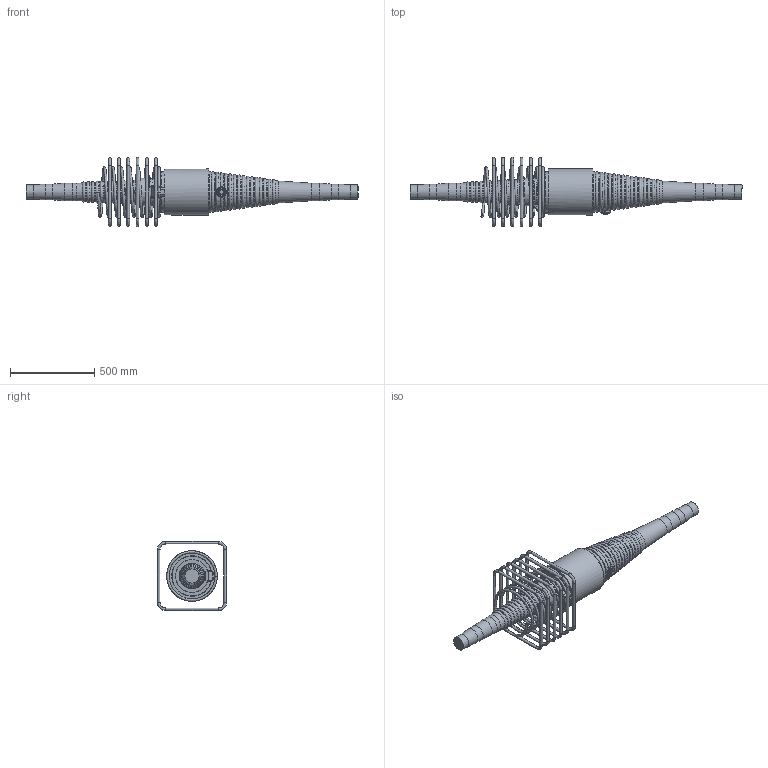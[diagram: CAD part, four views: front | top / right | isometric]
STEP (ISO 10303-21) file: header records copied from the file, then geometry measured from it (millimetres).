
FILE_DESCRIPTION(/* description */ (''),/* implementation_level */ '2;1');
FILE_NAME(/* name */ 'Z:\04 Publications\05 Give-out\BBR\6_3D_Models\BBR VT CONA CMI\BBR VT CONA CMI BT\01306\BBR VT CONA CMI BT 1306_Coupler H Assembly_CS-34,28.stp',/* time_stamp */ '2017-05-05T08:41:41+02:00',/* author */ ('IP'),/* organization */ (''),/* preprocessor_version */ 'ST-DEVELOPER v16.1',/* originating_system */ 'Autodesk Inventor 2016',/* authorisation */ '');
FILE_SCHEMA (('AUTOMOTIVE_DESIGN { 1 0 10303 214 3 1 1 }'));
Products named in the file (1): BBR VT CONA CMI BT 1306_Coupler H Assembly_CS-34,28
Bounding box: 1970.13 x 410 x 410 mm (x, y, z)
Volume: 45198340.5 mm3; surface area: 1859045.2 mm2
Topology: 8 solids, 8 shells, 1005 faces, 2560 edges, 1618 vertices
Faces by surface type: bspline 442, plane 272, torus 132, cylinder 116, cone 33, sphere 10
Full cylindrical faces by diameter (mm): 16 x24, 34 x2, 57 x2, 84 x2, 94 x2, 104 x2, 192.529 x1, 197.205 x1, 273 x1
Entity records: 44108 total; most frequent: CARTESIAN_POINT 22903, ORIENTED_EDGE 4722, DIRECTION 3156, EDGE_CURVE 2361, VERTEX_POINT 1608, EDGE_LOOP 1255, AXIS2_PLACEMENT_3D 1113, FACE_OUTER_BOUND 1005
